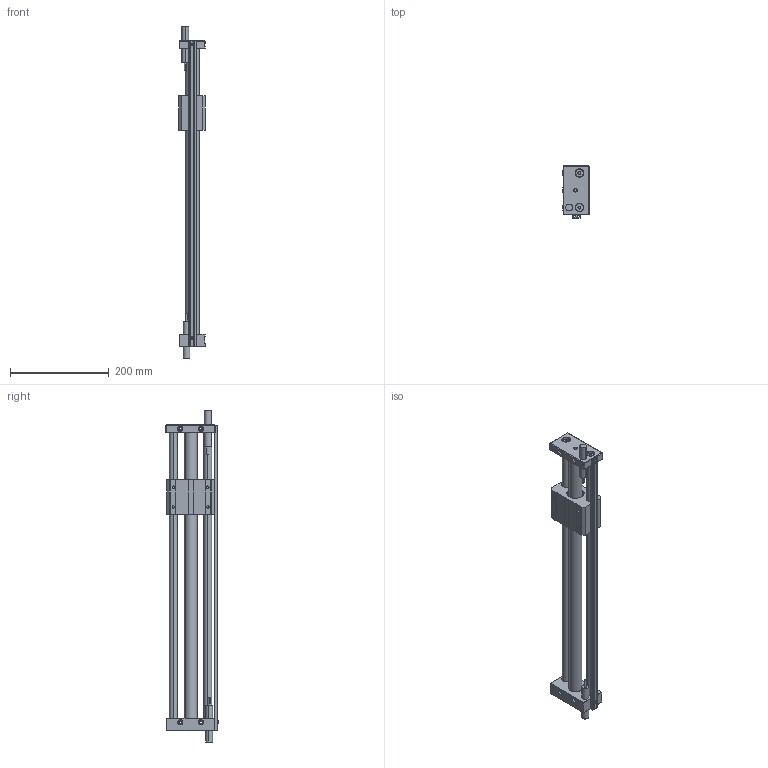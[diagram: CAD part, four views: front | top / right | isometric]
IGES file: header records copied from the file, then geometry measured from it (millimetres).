
Start section: SolidWorks IGES file using analytic representation for surfaces
Global section: file name: D:\Documents de SGA\Pieces 2D et 3D\GRU\iges\GRU 25.500.IGS; native system: SolidWorks 2010; preprocessor: SolidWorks 2010; author: SGA; date: 111216.112041; units: millimetre
Bounding box: 54 x 105.93 x 673.54 mm (x, y, z)
Surface area: 243855.1 mm2 (no closed solid volume)
Topology: 0 solids, 0 shells, 294 faces, 4396 edges, 4396 vertices
Faces by surface type: revolution 158, bspline 136
